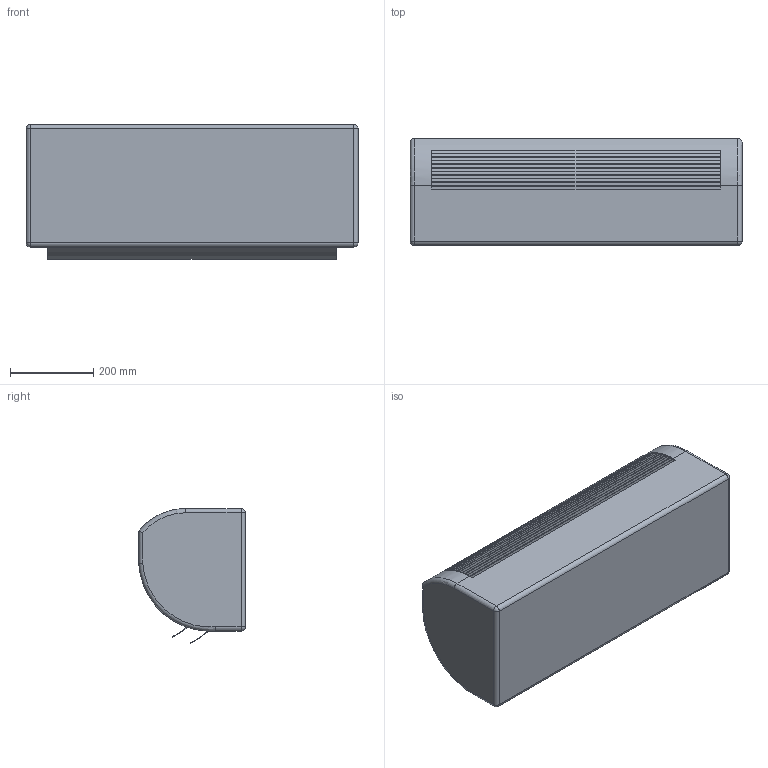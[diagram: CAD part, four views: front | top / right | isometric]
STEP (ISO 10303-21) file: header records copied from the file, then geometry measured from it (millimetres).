
FILE_DESCRIPTION(('FreeCAD Model'),'2;1');
FILE_NAME('Open CASCADE Shape Model','2026-04-13T11:35:54',(''),(''), 'Open CASCADE STEP processor 7.8','FreeCAD','Unknown');
FILE_SCHEMA(('AUTOMOTIVE_DESIGN { 1 0 10303 214 1 1 1 1 }'));
Length unit declared in the file: millimetre
Products named in the file (1): Evap Pared 12000
Bounding box: 800 x 257 x 324.65 mm (x, y, z)
Volume: 48947523.1 mm3; surface area: 1381508.8 mm2
Topology: 1 solids, 1 shells, 79 faces, 246 edges, 152 vertices
Faces by surface type: plane 52, cylinder 19, sphere 4, torus 4
Entity records: 2824 total; most frequent: CARTESIAN_POINT 542, ORIENTED_EDGE 484, DIRECTION 478, EDGE_CURVE 242, LINE 162, VECTOR 162, AXIS2_PLACEMENT_3D 158, VERTEX_POINT 152
